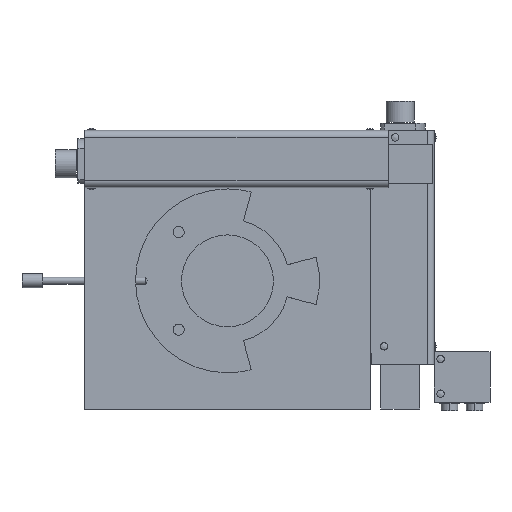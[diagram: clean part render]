
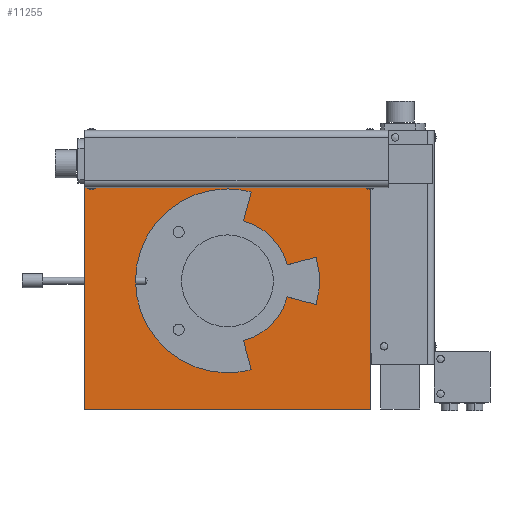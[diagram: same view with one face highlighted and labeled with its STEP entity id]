
A CAD part, front view. The second image highlights one B-rep face of the part: STEP entity #11255.
In plain terms, the highlighted planar face has unit normal (0, -1, 0) as drawn and (0, 0, -1) by its records, which use the part's own axes.
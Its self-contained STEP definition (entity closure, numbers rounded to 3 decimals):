
#202 = CARTESIAN_POINT ( 'NONE',  ( -42.984, 11.517, 0. ) ) ;
#208 = DIRECTION ( 'NONE',  ( 0., 0., -1. ) ) ;
#228 = LINE ( 'NONE', #5093, #7266 ) ;
#296 = EDGE_CURVE ( 'NONE', #9817, #11131, #13290, .T. ) ;
#314 = CARTESIAN_POINT ( 'NONE',  ( 102.5, 90., 0. ) ) ;
#567 = ORIENTED_EDGE ( 'NONE', *, *, #9356, .F. ) ;
#683 = DIRECTION ( 'NONE',  ( 1., 0., 0. ) ) ;
#854 = CARTESIAN_POINT ( 'NONE',  ( -102.5, -92., 0. ) ) ;
#1184 = EDGE_CURVE ( 'NONE', #10696, #6347, #15348, .T. ) ;
#1323 = ORIENTED_EDGE ( 'NONE', *, *, #296, .F. ) ;
#1502 = EDGE_CURVE ( 'NONE', #8872, #9817, #5091, .T. ) ;
#1707 = DIRECTION ( 'NONE',  ( 0.259, 0.966, 0. ) ) ;
#1721 = EDGE_CURVE ( 'NONE', #10316, #10002, #5258, .T. ) ;
#1743 = DIRECTION ( 'NONE',  ( 0., -1., 0. ) ) ;
#1801 = EDGE_CURVE ( 'NONE', #5435, #10894, #11077, .T. ) ;
#1859 = CARTESIAN_POINT ( 'NONE',  ( -102.5, 90., 0. ) ) ;
#1959 = LINE ( 'NONE', #3236, #10728 ) ;
#2062 = VERTEX_POINT ( 'NONE', #15052 ) ;
#2178 = DIRECTION ( 'NONE',  ( 0., 0., 1. ) ) ;
#2324 = ORIENTED_EDGE ( 'NONE', *, *, #1721, .T. ) ;
#2666 = AXIS2_PLACEMENT_3D ( 'NONE', #14318, #10428, #8359 ) ;
#2677 = CIRCLE ( 'NONE', #8017, 44.5 ) ;
#2789 = ORIENTED_EDGE ( 'NONE', *, *, #1801, .F. ) ;
#2818 = FACE_OUTER_BOUND ( 'NONE', #4131, .T. ) ;
#2913 = EDGE_CURVE ( 'NONE', #4431, #11131, #2677, .T. ) ;
#2958 = CARTESIAN_POINT ( 'NONE',  ( 0., -66., 0. ) ) ;
#3015 = ORIENTED_EDGE ( 'NONE', *, *, #13446, .F. ) ;
#3236 = CARTESIAN_POINT ( 'NONE',  ( -102.5, 90., 0. ) ) ;
#3369 = VERTEX_POINT ( 'NONE', #13858 ) ;
#3661 = ORIENTED_EDGE ( 'NONE', *, *, #1184, .F. ) ;
#3794 = LINE ( 'NONE', #14767, #12822 ) ;
#4108 = CARTESIAN_POINT ( 'NONE',  ( 102.5, 90., 0. ) ) ;
#4131 = EDGE_LOOP ( 'NONE', ( #2324, #15018, #5113, #11944 ) ) ;
#4406 = CARTESIAN_POINT ( 'NONE',  ( 0., 0., 0. ) ) ;
#4431 = VERTEX_POINT ( 'NONE', #9849 ) ;
#4652 = EDGE_CURVE ( 'NONE', #2062, #3369, #10944, .T. ) ;
#4706 = CARTESIAN_POINT ( 'NONE',  ( -17.082, -63.751, 0. ) ) ;
#4724 = VECTOR ( 'NONE', #15449, 1000. ) ;
#4875 = DIRECTION ( 'NONE',  ( 0., -1., 0. ) ) ;
#4915 = DIRECTION ( 'NONE',  ( 0., -1., 0. ) ) ;
#4937 = AXIS2_PLACEMENT_3D ( 'NONE', #13500, #208, #4915 ) ;
#5091 = CIRCLE ( 'NONE', #13968, 66. ) ;
#5093 = CARTESIAN_POINT ( 'NONE',  ( -17.082, 63.751, 0. ) ) ;
#5113 = ORIENTED_EDGE ( 'NONE', *, *, #4652, .F. ) ;
#5166 = EDGE_CURVE ( 'NONE', #3369, #10002, #15340, .T. ) ;
#5181 = DIRECTION ( 'NONE',  ( 0., -1., 0. ) ) ;
#5258 = LINE ( 'NONE', #314, #14371 ) ;
#5435 = VERTEX_POINT ( 'NONE', #7689 ) ;
#5444 = FACE_BOUND ( 'NONE', #14131, .T. ) ;
#5581 = CARTESIAN_POINT ( 'NONE',  ( -63.751, -17.082, 0. ) ) ;
#5646 = EDGE_CURVE ( 'NONE', #2062, #10316, #1959, .T. ) ;
#5777 = ORIENTED_EDGE ( 'NONE', *, *, #1502, .F. ) ;
#6249 = AXIS2_PLACEMENT_3D ( 'NONE', #7715, #8028, #1743 ) ;
#6347 = VERTEX_POINT ( 'NONE', #4706 ) ;
#6480 = LINE ( 'NONE', #11342, #10047 ) ;
#6548 = AXIS2_PLACEMENT_3D ( 'NONE', #1859, #10304, #6721 ) ;
#6616 = CARTESIAN_POINT ( 'NONE',  ( -63.751, 17.082, 0. ) ) ;
#6721 = DIRECTION ( 'NONE',  ( 0., 1., 0. ) ) ;
#7167 = CARTESIAN_POINT ( 'NONE',  ( -42.984, -11.517, 0. ) ) ;
#7258 = CARTESIAN_POINT ( 'NONE',  ( 102.5, -92., 0. ) ) ;
#7266 = VECTOR ( 'NONE', #9721, 1000. ) ;
#7529 = DIRECTION ( 'NONE',  ( -0.966, -0.259, 0. ) ) ;
#7689 = CARTESIAN_POINT ( 'NONE',  ( -17.082, 63.751, 0. ) ) ;
#7715 = CARTESIAN_POINT ( 'NONE',  ( 0., 0., 0. ) ) ;
#8017 = AXIS2_PLACEMENT_3D ( 'NONE', #4406, #11570, #10390 ) ;
#8028 = DIRECTION ( 'NONE',  ( 0., 0., -1. ) ) ;
#8324 = ORIENTED_EDGE ( 'NONE', *, *, #11493, .T. ) ;
#8359 = DIRECTION ( 'NONE',  ( 0., -1., 0. ) ) ;
#8630 = DIRECTION ( 'NONE',  ( 0., -1., 0. ) ) ;
#8767 = ORIENTED_EDGE ( 'NONE', *, *, #2913, .T. ) ;
#8872 = VERTEX_POINT ( 'NONE', #5581 ) ;
#9162 = EDGE_CURVE ( 'NONE', #13539, #8872, #3794, .T. ) ;
#9356 = EDGE_CURVE ( 'NONE', #6347, #10177, #6480, .T. ) ;
#9435 = CARTESIAN_POINT ( 'NONE',  ( 0., 0., 0. ) ) ;
#9721 = DIRECTION ( 'NONE',  ( -0.259, 0.966, 0. ) ) ;
#9817 = VERTEX_POINT ( 'NONE', #6616 ) ;
#9849 = CARTESIAN_POINT ( 'NONE',  ( -11.517, 42.984, 0. ) ) ;
#10002 = VERTEX_POINT ( 'NONE', #7258 ) ;
#10047 = VECTOR ( 'NONE', #1707, 1000. ) ;
#10082 = PLANE ( 'NONE',  #6548 ) ;
#10177 = VERTEX_POINT ( 'NONE', #13354 ) ;
#10304 = DIRECTION ( 'NONE',  ( 0., 0., 1. ) ) ;
#10316 = VERTEX_POINT ( 'NONE', #4108 ) ;
#10366 = CIRCLE ( 'NONE', #14435, 44.5 ) ;
#10390 = DIRECTION ( 'NONE',  ( -0.707, -0.707, 0. ) ) ;
#10428 = DIRECTION ( 'NONE',  ( 0., 0., -1. ) ) ;
#10431 = ORIENTED_EDGE ( 'NONE', *, *, #13550, .F. ) ;
#10514 = CARTESIAN_POINT ( 'NONE',  ( 0., 0., 0. ) ) ;
#10547 = CIRCLE ( 'NONE', #2666, 66. ) ;
#10597 = CARTESIAN_POINT ( 'NONE',  ( -42.984, 11.517, 0. ) ) ;
#10682 = DIRECTION ( 'NONE',  ( 0., 0., -1. ) ) ;
#10696 = VERTEX_POINT ( 'NONE', #2958 ) ;
#10720 = VECTOR ( 'NONE', #8630, 1000. ) ;
#10728 = VECTOR ( 'NONE', #683, 1000. ) ;
#10894 = VERTEX_POINT ( 'NONE', #11383 ) ;
#10944 = LINE ( 'NONE', #14820, #10720 ) ;
#11077 = CIRCLE ( 'NONE', #6249, 66. ) ;
#11131 = VERTEX_POINT ( 'NONE', #202 ) ;
#11255 = ADVANCED_FACE ( 'NONE', ( #5444, #2818 ), #10082, .F. ) ;
#11342 = CARTESIAN_POINT ( 'NONE',  ( -11.517, -42.984, 0. ) ) ;
#11383 = CARTESIAN_POINT ( 'NONE',  ( 0., 66., 0. ) ) ;
#11493 = EDGE_CURVE ( 'NONE', #13539, #10177, #10366, .T. ) ;
#11570 = DIRECTION ( 'NONE',  ( 0., 0., 1. ) ) ;
#11678 = VECTOR ( 'NONE', #14065, 1000. ) ;
#11944 = ORIENTED_EDGE ( 'NONE', *, *, #5646, .T. ) ;
#12822 = VECTOR ( 'NONE', #7529, 1000. ) ;
#13290 = LINE ( 'NONE', #10597, #4724 ) ;
#13354 = CARTESIAN_POINT ( 'NONE',  ( -11.517, -42.984, 0. ) ) ;
#13446 = EDGE_CURVE ( 'NONE', #10894, #10696, #10547, .T. ) ;
#13500 = CARTESIAN_POINT ( 'NONE',  ( 0., 0., 0. ) ) ;
#13539 = VERTEX_POINT ( 'NONE', #7167 ) ;
#13550 = EDGE_CURVE ( 'NONE', #4431, #5435, #228, .T. ) ;
#13858 = CARTESIAN_POINT ( 'NONE',  ( -102.5, -92., 0. ) ) ;
#13968 = AXIS2_PLACEMENT_3D ( 'NONE', #10514, #10682, #4875 ) ;
#14065 = DIRECTION ( 'NONE',  ( 1., 0., 0. ) ) ;
#14131 = EDGE_LOOP ( 'NONE', ( #5777, #15497, #8324, #567, #3661, #3015, #2789, #10431, #8767, #1323 ) ) ;
#14318 = CARTESIAN_POINT ( 'NONE',  ( 0., 0., 0. ) ) ;
#14371 = VECTOR ( 'NONE', #5181, 1000. ) ;
#14435 = AXIS2_PLACEMENT_3D ( 'NONE', #9435, #2178, #15476 ) ;
#14767 = CARTESIAN_POINT ( 'NONE',  ( -63.751, -17.082, 0. ) ) ;
#14820 = CARTESIAN_POINT ( 'NONE',  ( -102.5, 90., 0. ) ) ;
#15018 = ORIENTED_EDGE ( 'NONE', *, *, #5166, .F. ) ;
#15052 = CARTESIAN_POINT ( 'NONE',  ( -102.5, 90., 0. ) ) ;
#15340 = LINE ( 'NONE', #854, #11678 ) ;
#15348 = CIRCLE ( 'NONE', #4937, 66. ) ;
#15449 = DIRECTION ( 'NONE',  ( 0.966, -0.259, 0. ) ) ;
#15476 = DIRECTION ( 'NONE',  ( 0.707, -0.707, 0. ) ) ;
#15497 = ORIENTED_EDGE ( 'NONE', *, *, #9162, .F. ) ;
